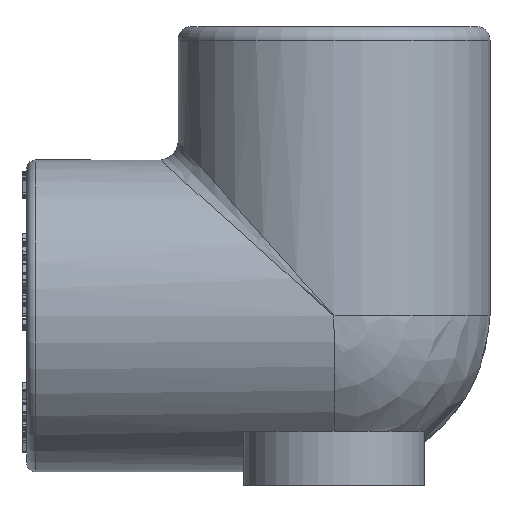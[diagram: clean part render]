
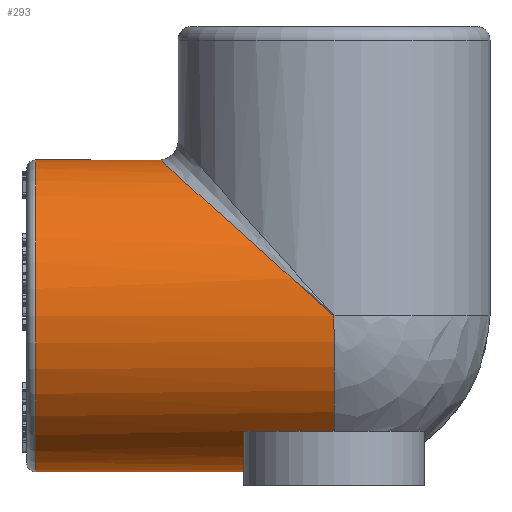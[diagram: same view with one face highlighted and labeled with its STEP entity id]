
A CAD part, left-side view. The second image highlights one B-rep face of the part: STEP entity #293.
In plain terms, the highlighted cylindrical face has radius 17.25 mm (diameter 34.5 mm), a full revolution.
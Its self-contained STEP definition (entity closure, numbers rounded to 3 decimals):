
#293=ADVANCED_FACE('',(#1490,#1492),#1494,.T.);
#1490=FACE_BOUND('',#1491,.T.);
#1491=EDGE_LOOP('',(#6698,#6699,#6700,#6701,#6702,#6703,#6704));
#1492=FACE_OUTER_BOUND('',#1493,.T.);
#1493=EDGE_LOOP('',(#6705));
#1494=CYLINDRICAL_SURFACE('',#1495,17.25);
#1495=AXIS2_PLACEMENT_3D('',#1496,#1497,#1498);
#1496=CARTESIAN_POINT('',(0.,0.,0.));
#1497=DIRECTION('',(0.,1.,0.));
#1498=DIRECTION('',(-1.,0.,0.));
#6698=ORIENTED_EDGE('',*,*,#11670,.F.);
#6699=ORIENTED_EDGE('',*,*,#11733,.F.);
#6700=ORIENTED_EDGE('',*,*,#11736,.F.);
#6701=ORIENTED_EDGE('',*,*,#11737,.F.);
#6702=ORIENTED_EDGE('',*,*,#11738,.F.);
#6703=ORIENTED_EDGE('',*,*,#11666,.F.);
#6704=ORIENTED_EDGE('',*,*,#11671,.F.);
#6705=ORIENTED_EDGE('',*,*,#11739,.F.);
#11666=EDGE_CURVE('',#13644,#13701,#13702,.F.);
#11670=EDGE_CURVE('',#13707,#13643,#13709,.F.);
#11671=EDGE_CURVE('',#13643,#13644,#13710,.F.);
#11733=EDGE_CURVE('',#13806,#13707,#13809,.F.);
#11736=EDGE_CURVE('',#13813,#13806,#13814,.F.);
#11737=EDGE_CURVE('',#13815,#13813,#13816,.F.);
#11738=EDGE_CURVE('',#13701,#13815,#13817,.T.);
#11739=EDGE_CURVE('',#13818,#13818,#13819,.T.);
#13643=VERTEX_POINT('',#17028);
#13644=VERTEX_POINT('',#17029);
#13701=VERTEX_POINT('',#17193);
#13702=CIRCLE('',#17194,17.25);
#13707=VERTEX_POINT('',#17208);
#13709=CIRCLE('',#17213,17.25);
#13710=B_SPLINE_CURVE_WITH_KNOTS('',3,
(#17217,#17218,#17219,#17220,#17221,#17222,#17223,#17224,#17225,#17226,#17227,#17228,
#17229,#17230,#17231,#17232,#17233,#17234,#17235,#17236,#17237,#17238,#17239,#17240,
#17241,#17242,#17243,#17244,#17245,#17246,#17247,#17248,#17249,#17250,#17251,#17252),
.UNSPECIFIED.,.F.,.F.,
(4,1,1,1,1,1,1,1,1,1,1,1,1,1,1,1,1,1,1,1,1,1,1,1,1,1,1,1,1,1,1,1,1,4),
(0.,0.055,0.103,0.142,0.18,0.215,
0.247,0.277,0.305,0.332,0.357,
0.382,0.405,0.428,0.449,0.469,
0.488,0.508,0.528,0.549,0.57,
0.593,0.617,0.642,0.668,0.696,
0.726,0.758,0.792,0.829,0.868,
0.91,0.955,1.),
.UNSPECIFIED.);
#13806=VERTEX_POINT('',#17483);
#13809=LINE('',#17488,#17489);
#13813=VERTEX_POINT('',#17500);
#13814=CIRCLE('',#17501,17.25);
#13815=VERTEX_POINT('',#17505);
#13816=CIRCLE('',#17506,17.25);
#13817=LINE('',#17510,#17511);
#13818=VERTEX_POINT('',#17513);
#13819=CIRCLE('',#17514,17.25);
#17028=CARTESIAN_POINT('',(17.25,0.,0.));
#17029=CARTESIAN_POINT('',(-17.25,0.,0.));
#17193=CARTESIAN_POINT('',(-11.619,0.,-12.75));
#17194=AXIS2_PLACEMENT_3D('',#17195,#17196,#17197);
#17195=CARTESIAN_POINT('',(0.,0.,0.));
#17196=DIRECTION('',(0.,1.,0.));
#17197=DIRECTION('',(-0.674,0.,-0.739));
#17208=CARTESIAN_POINT('',(11.619,0.,-12.75));
#17213=AXIS2_PLACEMENT_3D('',#17214,#17215,#17216);
#17214=CARTESIAN_POINT('',(0.,0.,0.));
#17215=DIRECTION('',(0.,1.,0.));
#17216=DIRECTION('',(1.,0.,0.));
#17217=CARTESIAN_POINT('',(-17.25,0.,0.));
#17218=CARTESIAN_POINT('',(-17.25,0.936,0.839));
#17219=CARTESIAN_POINT('',(-17.136,2.687,2.407));
#17220=CARTESIAN_POINT('',(-16.679,5.083,4.555));
#17221=CARTESIAN_POINT('',(-16.05,7.151,6.408));
#17222=CARTESIAN_POINT('',(-15.301,8.959,8.028));
#17223=CARTESIAN_POINT('',(-14.428,10.607,9.505));
#17224=CARTESIAN_POINT('',(-13.458,12.087,10.831));
#17225=CARTESIAN_POINT('',(-12.406,13.413,12.02));
#17226=CARTESIAN_POINT('',(-11.282,14.595,13.078));
#17227=CARTESIAN_POINT('',(-10.096,15.638,14.013));
#17228=CARTESIAN_POINT('',(-8.848,16.552,14.833));
#17229=CARTESIAN_POINT('',(-7.544,17.338,15.537));
#17230=CARTESIAN_POINT('',(-6.196,17.99,16.121));
#17231=CARTESIAN_POINT('',(-4.838,18.5,16.578));
#17232=CARTESIAN_POINT('',(-3.484,18.874,16.913));
#17233=CARTESIAN_POINT('',(-2.139,19.121,17.135));
#17234=CARTESIAN_POINT('',(-0.788,19.25,17.25));
#17235=CARTESIAN_POINT('',(0.568,19.259,17.258));
#17236=CARTESIAN_POINT('',(1.937,19.149,17.159));
#17237=CARTESIAN_POINT('',(3.319,18.912,16.947));
#17238=CARTESIAN_POINT('',(4.713,18.541,16.615));
#17239=CARTESIAN_POINT('',(6.104,18.03,16.157));
#17240=CARTESIAN_POINT('',(7.477,17.375,15.569));
#17241=CARTESIAN_POINT('',(8.816,16.576,14.853));
#17242=CARTESIAN_POINT('',(10.108,15.631,14.007));
#17243=CARTESIAN_POINT('',(11.344,14.539,13.028));
#17244=CARTESIAN_POINT('',(12.513,13.293,11.912));
#17245=CARTESIAN_POINT('',(13.604,11.886,10.651));
#17246=CARTESIAN_POINT('',(14.604,10.308,9.237));
#17247=CARTESIAN_POINT('',(15.493,8.548,7.66));
#17248=CARTESIAN_POINT('',(16.239,6.612,5.925));
#17249=CARTESIAN_POINT('',(16.809,4.514,4.045));
#17250=CARTESIAN_POINT('',(17.168,2.293,2.055));
#17251=CARTESIAN_POINT('',(17.25,0.771,0.691));
#17252=CARTESIAN_POINT('',(17.25,0.,0.));
#17483=CARTESIAN_POINT('',(11.619,10.,-12.75));
#17488=CARTESIAN_POINT('',(11.619,0.,-12.75));
#17489=VECTOR('',#17490,1.);
#17490=DIRECTION('',(0.,1.,0.));
#17500=CARTESIAN_POINT('',(0.,10.,-17.25));
#17501=AXIS2_PLACEMENT_3D('',#17502,#17503,#17504);
#17502=CARTESIAN_POINT('',(0.,10.,0.));
#17503=DIRECTION('',(0.,1.,0.));
#17504=DIRECTION('',(0.674,0.,-0.739));
#17505=CARTESIAN_POINT('',(-11.619,10.,-12.75));
#17506=AXIS2_PLACEMENT_3D('',#17507,#17508,#17509);
#17507=CARTESIAN_POINT('',(0.,10.,0.));
#17508=DIRECTION('',(0.,1.,0.));
#17509=DIRECTION('',(0.,0.,-1.));
#17510=CARTESIAN_POINT('',(-11.619,0.,-12.75));
#17511=VECTOR('',#17512,1.);
#17512=DIRECTION('',(0.,1.,0.));
#17513=CARTESIAN_POINT('',(-17.25,33.,0.));
#17514=AXIS2_PLACEMENT_3D('',#17515,#17516,#17517);
#17515=CARTESIAN_POINT('',(0.,33.,0.));
#17516=DIRECTION('',(0.,1.,0.));
#17517=DIRECTION('',(-1.,0.,0.));
